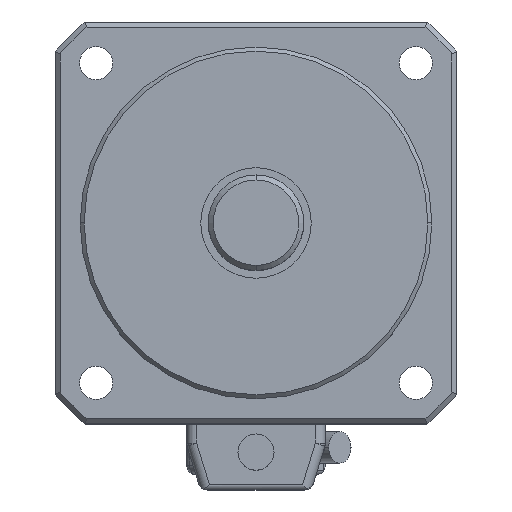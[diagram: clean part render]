
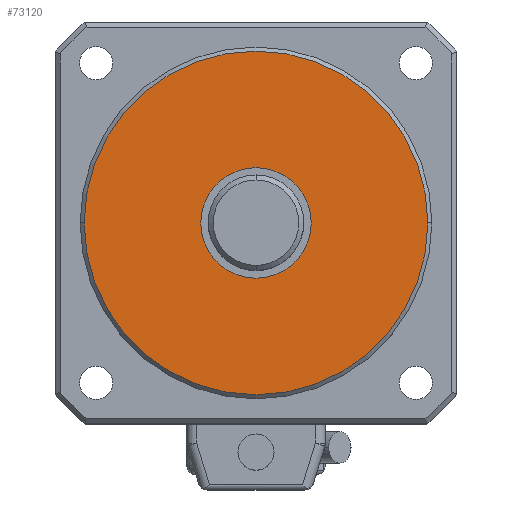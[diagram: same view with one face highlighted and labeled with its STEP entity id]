
A CAD part, top view. The second image highlights one B-rep face of the part: STEP entity #73120.
In plain terms, the highlighted planar face has unit normal (0, 0, 1) as drawn and (0, 0, -1) by its records, which use the part's own axes.
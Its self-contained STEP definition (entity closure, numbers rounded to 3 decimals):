
#72770=CARTESIAN_POINT('',(-37.75,0.,-0.9));
#72780=DIRECTION('',(0.,0.,-1.));
#72790=DIRECTION('',(-1.,0.,0.));
#72800=AXIS2_PLACEMENT_3D('',#72770,#72780,#72790);
#72810=PLANE('',#72800);
#72820=CARTESIAN_POINT('',(0.,0.,-0.9));
#72830=DIRECTION('',(0.,0.,-1.));
#72840=DIRECTION('',(-1.,0.,0.));
#72850=AXIS2_PLACEMENT_3D('',#72820,#72830,#72840);
#72860=CIRCLE('',#72850,11.);
#72870=CARTESIAN_POINT('',(-11.,0.,-0.9));
#72880=VERTEX_POINT('',#72870);
#72890=CARTESIAN_POINT('',(11.,0.,-0.9))
;
#72900=VERTEX_POINT('',#72890);
#72910=EDGE_CURVE('',#72880,#72900,#72860,.T.);
#72920=ORIENTED_EDGE('',*,*,#72910,.F.);
#72930=EDGE_CURVE('',#72900,#72880,#72860,.T.);
#72940=ORIENTED_EDGE('',*,*,#72930,.F.);
#72950=EDGE_LOOP('',(#72940,#72920));
#72960=FACE_BOUND('',#72950,.T.);
#72970=CARTESIAN_POINT('',(0.,0.,-0.9));
#72980=DIRECTION('',(0.,0.,-1.));
#72990=DIRECTION('',(-1.,0.,0.));
#73000=AXIS2_PLACEMENT_3D('',#72970,#72980,#72990);
#73010=CIRCLE('',#73000,34.2);
#73020=CARTESIAN_POINT('',(-34.2,0.,-0.9
));
#73030=VERTEX_POINT('',#73020);
#73040=CARTESIAN_POINT('',(34.2,0.,-0.9));
#73050=VERTEX_POINT('',#73040);
#73060=EDGE_CURVE('',#73030,#73050,#73010,.T.);
#73070=ORIENTED_EDGE('',*,*,#73060,.T.);
#73080=EDGE_CURVE('',#73050,#73030,#73010,.T.);
#73090=ORIENTED_EDGE('',*,*,#73080,.T.);
#73100=EDGE_LOOP('',(#73090,#73070));
#73110=FACE_OUTER_BOUND('',#73100,.T.);
#73120=ADVANCED_FACE('',(#72960,#73110),#72810,.T.);
